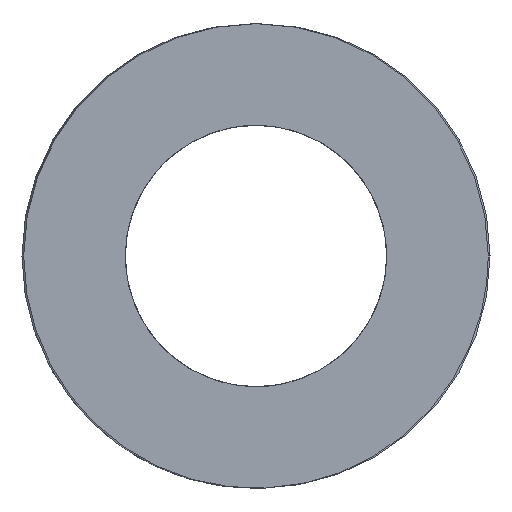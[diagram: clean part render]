
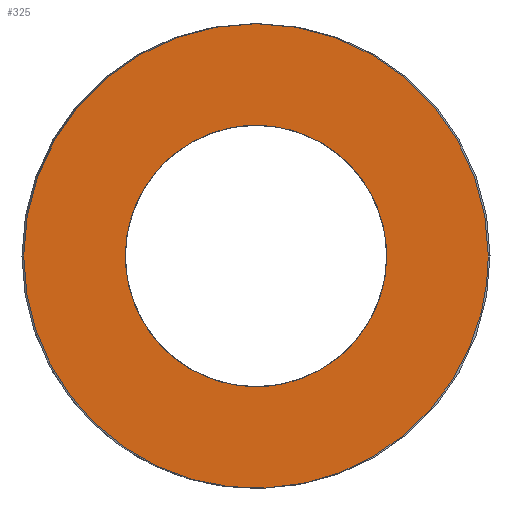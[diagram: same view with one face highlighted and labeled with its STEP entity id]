
A CAD part, left-side view. The second image highlights one B-rep face of the part: STEP entity #325.
In plain terms, the highlighted planar face has unit normal (-1, 0, 0).
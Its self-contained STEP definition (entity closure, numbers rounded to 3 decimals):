
#63=CARTESIAN_POINT('Vertex',(0.,18.75,0.)) ;
#89=CARTESIAN_POINT('Vertex',(0.,-18.75,0.)) ;
#93=CARTESIAN_POINT('Control Point',(0.,18.75,0.)) ;
#94=CARTESIAN_POINT('Control Point',(0.,18.75,-2.945)) ;
#95=CARTESIAN_POINT('Control Point',(0.,18.172,-5.89)) ;
#96=CARTESIAN_POINT('Control Point',(0.,17.015,-8.684)) ;
#97=CARTESIAN_POINT('Control Point',(0.,13.667,-13.667)) ;
#98=CARTESIAN_POINT('Control Point',(0.,8.684,-17.015)) ;
#99=CARTESIAN_POINT('Control Point',(0.,5.89,-18.172)) ;
#100=CARTESIAN_POINT('Control Point',(0.,0.,-19.328)) ;
#101=CARTESIAN_POINT('Control Point',(0.,-5.89,-18.172)) ;
#102=CARTESIAN_POINT('Control Point',(0.,-8.684,-17.015)) ;
#103=CARTESIAN_POINT('Control Point',(0.,-13.667,-13.667)) ;
#104=CARTESIAN_POINT('Control Point',(0.,-17.015,-8.684)) ;
#105=CARTESIAN_POINT('Control Point',(0.,-18.172,-5.89)) ;
#106=CARTESIAN_POINT('Control Point',(0.,-18.75,-2.945)) ;
#107=CARTESIAN_POINT('Control Point',(0.,-18.75,0.)) ;
#121=CARTESIAN_POINT('Axis2P3D Location',(0.,0.,0.)) ;
#256=CARTESIAN_POINT('Axis2P3D Location',(0.,9.375,0.)) ;
#266=CARTESIAN_POINT('Control Point',(0.,0.,-10.55)) ;
#267=CARTESIAN_POINT('Control Point',(0.,0.955,-10.55)) ;
#268=CARTESIAN_POINT('Control Point',(0.,1.909,-10.442)) ;
#269=CARTESIAN_POINT('Control Point',(0.,2.848,-10.226)) ;
#270=CARTESIAN_POINT('Control Point',(0.,4.66,-9.585)) ;
#271=CARTESIAN_POINT('Control Point',(0.,6.283,-8.556)) ;
#272=CARTESIAN_POINT('Control Point',(0.,7.032,-7.952)) ;
#273=CARTESIAN_POINT('Control Point',(0.,8.381,-6.584)) ;
#274=CARTESIAN_POINT('Control Point',(0.,9.391,-4.949)) ;
#275=CARTESIAN_POINT('Control Point',(0.,9.801,-4.077)) ;
#276=CARTESIAN_POINT('Control Point',(0.,10.416,-2.257)) ;
#277=CARTESIAN_POINT('Control Point',(0.,10.61,-0.345)) ;
#278=CARTESIAN_POINT('Control Point',(0.,10.597,0.618)) ;
#279=CARTESIAN_POINT('Control Point',(0.,10.355,2.524)) ;
#280=CARTESIAN_POINT('Control Point',(0.,9.693,4.328)) ;
#281=CARTESIAN_POINT('Control Point',(0.,9.26,5.189)) ;
#282=CARTESIAN_POINT('Control Point',(0.,8.209,6.797)) ;
#283=CARTESIAN_POINT('Control Point',(0.,6.825,8.13)) ;
#284=CARTESIAN_POINT('Control Point',(0.,6.06,8.715)) ;
#285=CARTESIAN_POINT('Control Point',(0.,4.458,9.674)) ;
#286=CARTESIAN_POINT('Control Point',(0.,2.687,10.262)) ;
#287=CARTESIAN_POINT('Control Point',(0.,1.801,10.454)) ;
#288=CARTESIAN_POINT('Control Point',(0.,0.9,10.55)) ;
#289=CARTESIAN_POINT('Control Point',(0.,0.,10.55)) ;
#290=CARTESIAN_POINT('Vertex',(0.,0.,-10.55)) ;
#292=CARTESIAN_POINT('Vertex',(0.,0.,10.55)) ;
#296=CARTESIAN_POINT('Control Point',(0.,0.,10.55)) ;
#297=CARTESIAN_POINT('Control Point',(0.,-0.955,10.55)) ;
#298=CARTESIAN_POINT('Control Point',(0.,-1.909,10.442)) ;
#299=CARTESIAN_POINT('Control Point',(0.,-2.848,10.226)) ;
#300=CARTESIAN_POINT('Control Point',(0.,-4.66,9.585)) ;
#301=CARTESIAN_POINT('Control Point',(0.,-6.283,8.556)) ;
#302=CARTESIAN_POINT('Control Point',(0.,-7.032,7.952)) ;
#303=CARTESIAN_POINT('Control Point',(0.,-8.381,6.584)) ;
#304=CARTESIAN_POINT('Control Point',(0.,-9.391,4.949)) ;
#305=CARTESIAN_POINT('Control Point',(0.,-9.801,4.077)) ;
#306=CARTESIAN_POINT('Control Point',(0.,-10.416,2.257)) ;
#307=CARTESIAN_POINT('Control Point',(0.,-10.61,0.345)) ;
#308=CARTESIAN_POINT('Control Point',(0.,-10.597,-0.618)) ;
#309=CARTESIAN_POINT('Control Point',(0.,-10.355,-2.524)) ;
#310=CARTESIAN_POINT('Control Point',(0.,-9.693,-4.328)) ;
#311=CARTESIAN_POINT('Control Point',(0.,-9.26,-5.189)) ;
#312=CARTESIAN_POINT('Control Point',(0.,-8.209,-6.797)) ;
#313=CARTESIAN_POINT('Control Point',(0.,-6.825,-8.13)) ;
#314=CARTESIAN_POINT('Control Point',(0.,-6.06,-8.715)) ;
#315=CARTESIAN_POINT('Control Point',(0.,-4.458,-9.674)) ;
#316=CARTESIAN_POINT('Control Point',(0.,-2.687,-10.262)) ;
#317=CARTESIAN_POINT('Control Point',(0.,-1.801,-10.454)) ;
#318=CARTESIAN_POINT('Control Point',(0.,-0.9,-10.55)) ;
#319=CARTESIAN_POINT('Control Point',(0.,0.,-10.55)) ;
#122=DIRECTION('Axis2P3D Direction',(1.,-0.,0.)) ;
#257=DIRECTION('Axis2P3D Direction',(-1.,0.,0.)) ;
#258=DIRECTION('Axis2P3D XDirection',(0.,1.,0.)) ;
#123=AXIS2_PLACEMENT_3D('Circle Axis2P3D',#121,#122,$) ;
#259=AXIS2_PLACEMENT_3D('Plane Axis2P3D',#256,#257,#258) ;
#262=ORIENTED_EDGE('',*,*,#108,.T.) ;
#263=ORIENTED_EDGE('',*,*,#125,.T.) ;
#322=ORIENTED_EDGE('',*,*,#294,.T.) ;
#323=ORIENTED_EDGE('',*,*,#320,.T.) ;
#324=FACE_BOUND('',#321,.T.) ;
#325=ADVANCED_FACE('392-B40-178',(#264,#324),#260,.T.) ;
#92=B_SPLINE_CURVE_WITH_KNOTS('',5,(#93,#94,#95,#96,#97,#98,#99,#100,#101,#102,#103,#104,#105,#106,#107),.UNSPECIFIED.,.F.,.U.,(6,3,3,3,6),(-29.452,-14.726,0.,14.726,29.452),.UNSPECIFIED.) ;
#265=B_SPLINE_CURVE_WITH_KNOTS('',5,(#266,#267,#268,#269,#270,#271,#272,#273,#274,#275,#276,#277,#278,#279,#280,#281,#282,#283,#284,#285,#286,#287,#288,#289),.UNSPECIFIED.,.F.,.U.,(6,3,3,3,3,3,3,6),(0.,6.751,13.502,20.253,27.004,33.755,40.506,46.872),.UNSPECIFIED.) ;
#295=B_SPLINE_CURVE_WITH_KNOTS('',5,(#296,#297,#298,#299,#300,#301,#302,#303,#304,#305,#306,#307,#308,#309,#310,#311,#312,#313,#314,#315,#316,#317,#318,#319),.UNSPECIFIED.,.F.,.U.,(6,3,3,3,3,3,3,6),(0.,6.751,13.502,20.253,27.004,33.755,40.506,46.872),.UNSPECIFIED.) ;
#124=CIRCLE('generated circle',#123,18.75) ;
#108=EDGE_CURVE('',#64,#90,#92,.T.) ;
#125=EDGE_CURVE('',#90,#64,#124,.F.) ;
#294=EDGE_CURVE('',#291,#293,#265,.T.) ;
#320=EDGE_CURVE('',#293,#291,#295,.T.) ;
#261=EDGE_LOOP('',(#262,#263)) ;
#321=EDGE_LOOP('',(#322,#323)) ;
#264=FACE_OUTER_BOUND('',#261,.T.) ;
#260=PLANE('Plane',#259) ;
#64=VERTEX_POINT('',#63) ;
#90=VERTEX_POINT('',#89) ;
#291=VERTEX_POINT('',#290) ;
#293=VERTEX_POINT('',#292) ;
